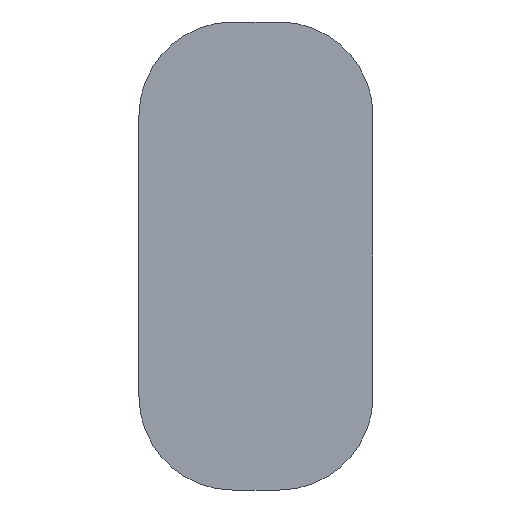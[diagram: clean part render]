
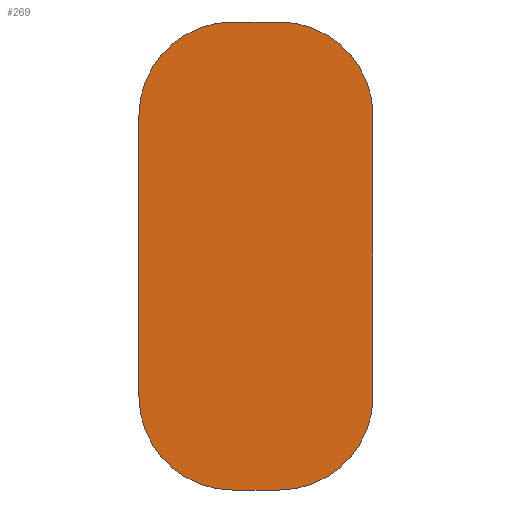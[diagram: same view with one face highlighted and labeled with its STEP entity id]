
A CAD part, left-side view. The second image highlights one B-rep face of the part: STEP entity #269.
In plain terms, the highlighted planar face has unit normal (-1, 0, 0).
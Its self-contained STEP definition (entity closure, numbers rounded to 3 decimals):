
#5 = DIRECTION ( 'NONE',  ( -1., 0., 0. ) ) ;
#12 = DIRECTION ( 'NONE',  ( 0., 1., 0. ) ) ;
#20 = DIRECTION ( 'NONE',  ( -1., 0., 0. ) ) ;
#22 = VERTEX_POINT ( 'NONE', #611 ) ;
#30 = AXIS2_PLACEMENT_3D ( 'NONE', #83, #347, #241 ) ;
#32 = ORIENTED_EDGE ( 'NONE', *, *, #318, .T. ) ;
#38 = EDGE_LOOP ( 'NONE', ( #296, #167, #551, #290, #564, #32, #41, #194 ) ) ;
#41 = ORIENTED_EDGE ( 'NONE', *, *, #526, .T. ) ;
#42 = CARTESIAN_POINT ( 'NONE',  ( -7., 5., -6. ) ) ;
#48 = DIRECTION ( 'NONE',  ( -1., 0., 0. ) ) ;
#53 = LINE ( 'NONE', #264, #365 ) ;
#61 = DIRECTION ( 'NONE',  ( 0., 0., 1. ) ) ;
#65 = EDGE_CURVE ( 'NONE', #90, #623, #581, .T. ) ;
#69 = CARTESIAN_POINT ( 'NONE',  ( -7., 1., -10. ) ) ;
#83 = CARTESIAN_POINT ( 'NONE',  ( -7., -5., -10. ) ) ;
#90 = VERTEX_POINT ( 'NONE', #386 ) ;
#108 = DIRECTION ( 'NONE',  ( 0., 0., 1. ) ) ;
#113 = CARTESIAN_POINT ( 'NONE',  ( -7., -5., -6. ) ) ;
#118 = AXIS2_PLACEMENT_3D ( 'NONE', #627, #20, #224 ) ;
#124 = VERTEX_POINT ( 'NONE', #533 ) ;
#126 = LINE ( 'NONE', #478, #259 ) ;
#148 = PLANE ( 'NONE',  #30 ) ;
#167 = ORIENTED_EDGE ( 'NONE', *, *, #65, .T. ) ;
#186 = CARTESIAN_POINT ( 'NONE',  ( -7., 1., -6. ) ) ;
#194 = ORIENTED_EDGE ( 'NONE', *, *, #429, .T. ) ;
#221 = CIRCLE ( 'NONE', #592, 4. ) ;
#224 = DIRECTION ( 'NONE',  ( 0., 0., -1. ) ) ;
#229 = CIRCLE ( 'NONE', #118, 4. ) ;
#230 = VERTEX_POINT ( 'NONE', #524 ) ;
#232 = DIRECTION ( 'NONE',  ( 0., 1., 0. ) ) ;
#241 = DIRECTION ( 'NONE',  ( 0., 0., 1. ) ) ;
#250 = CARTESIAN_POINT ( 'NONE',  ( -7., -1., 6. ) ) ;
#255 = EDGE_CURVE ( 'NONE', #90, #514, #596, .T. ) ;
#259 = VECTOR ( 'NONE', #270, 1000. ) ;
#264 = CARTESIAN_POINT ( 'NONE',  ( -7., -1., 10. ) ) ;
#265 = VERTEX_POINT ( 'NONE', #602 ) ;
#269 = ADVANCED_FACE ( 'NONE', ( #444 ), #148, .T. ) ;
#270 = DIRECTION ( 'NONE',  ( 0., 1., 0. ) ) ;
#290 = ORIENTED_EDGE ( 'NONE', *, *, #547, .T. ) ;
#294 = DIRECTION ( 'NONE',  ( 0., -1., 0. ) ) ;
#296 = ORIENTED_EDGE ( 'NONE', *, *, #255, .F. ) ;
#318 = EDGE_CURVE ( 'NONE', #230, #124, #477, .T. ) ;
#347 = DIRECTION ( 'NONE',  ( -1., 0., 0. ) ) ;
#362 = CARTESIAN_POINT ( 'NONE',  ( -7., 1., 6. ) ) ;
#365 = VECTOR ( 'NONE', #12, 1000. ) ;
#378 = DIRECTION ( 'NONE',  ( -1., 0., 0. ) ) ;
#386 = CARTESIAN_POINT ( 'NONE',  ( -7., 5., -6. ) ) ;
#404 = AXIS2_PLACEMENT_3D ( 'NONE', #186, #378, #232 ) ;
#406 = EDGE_CURVE ( 'NONE', #648, #230, #619, .T. ) ;
#429 = EDGE_CURVE ( 'NONE', #22, #514, #221, .T. ) ;
#444 = FACE_OUTER_BOUND ( 'NONE', #38, .T. ) ;
#474 = CARTESIAN_POINT ( 'NONE',  ( -7., -5., -6. ) ) ;
#477 = CIRCLE ( 'NONE', #512, 4. ) ;
#478 = CARTESIAN_POINT ( 'NONE',  ( -7., -1., -10. ) ) ;
#490 = VECTOR ( 'NONE', #108, 1000. ) ;
#508 = CARTESIAN_POINT ( 'NONE',  ( -7., 5., 6. ) ) ;
#512 = AXIS2_PLACEMENT_3D ( 'NONE', #250, #48, #294 ) ;
#514 = VERTEX_POINT ( 'NONE', #508 ) ;
#515 = VECTOR ( 'NONE', #543, 1000. ) ;
#524 = CARTESIAN_POINT ( 'NONE',  ( -7., -5., 6. ) ) ;
#526 = EDGE_CURVE ( 'NONE', #124, #22, #53, .T. ) ;
#533 = CARTESIAN_POINT ( 'NONE',  ( -7., -1., 10. ) ) ;
#543 = DIRECTION ( 'NONE',  ( 0., 0., 1. ) ) ;
#547 = EDGE_CURVE ( 'NONE', #265, #648, #229, .T. ) ;
#551 = ORIENTED_EDGE ( 'NONE', *, *, #590, .F. ) ;
#564 = ORIENTED_EDGE ( 'NONE', *, *, #406, .T. ) ;
#581 = CIRCLE ( 'NONE', #404, 4. ) ;
#590 = EDGE_CURVE ( 'NONE', #265, #623, #126, .T. ) ;
#592 = AXIS2_PLACEMENT_3D ( 'NONE', #362, #5, #61 ) ;
#596 = LINE ( 'NONE', #42, #515 ) ;
#602 = CARTESIAN_POINT ( 'NONE',  ( -7., -1., -10. ) ) ;
#611 = CARTESIAN_POINT ( 'NONE',  ( -7., 1., 10. ) ) ;
#619 = LINE ( 'NONE', #113, #490 ) ;
#623 = VERTEX_POINT ( 'NONE', #69 ) ;
#627 = CARTESIAN_POINT ( 'NONE',  ( -7., -1., -6. ) ) ;
#648 = VERTEX_POINT ( 'NONE', #474 ) ;
